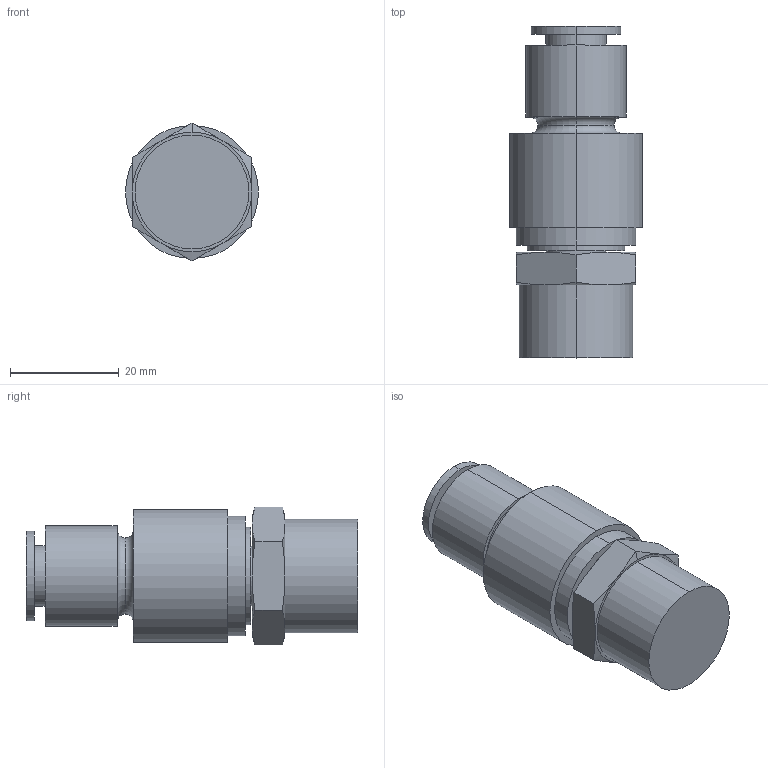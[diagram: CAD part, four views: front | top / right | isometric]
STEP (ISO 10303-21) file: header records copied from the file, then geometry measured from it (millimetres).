
FILE_DESCRIPTION (( 'STEP AP203' ), '1' );
FILE_NAME ('FKXH10-04.STEP', '2022-04-18T15:20:50', ( '' ), ( '' ), 'SwSTEP 2.0', 'SolidWorks 2019', '' );
FILE_SCHEMA (( 'CONFIG_CONTROL_DESIGN' ));
Length unit declared in the file: millimetre
Products named in the file (1): FKXH10-04
Bounding box: 24.5 x 61.1 x 25.4 mm (x, y, z)
Volume: 19774.9 mm3; surface area: 6658.3 mm2
Topology: 1 solids, 1 shells, 54 faces, 110 edges, 68 vertices
Faces by surface type: cylinder 18, plane 18, cone 14, torus 4
Entity records: 1823 total; most frequent: CARTESIAN_POINT 601, DIRECTION 256, ORIENTED_EDGE 220, AXIS2_PLACEMENT_3D 115, EDGE_CURVE 110, VERTEX_POINT 68, EDGE_LOOP 64, CIRCLE 60
